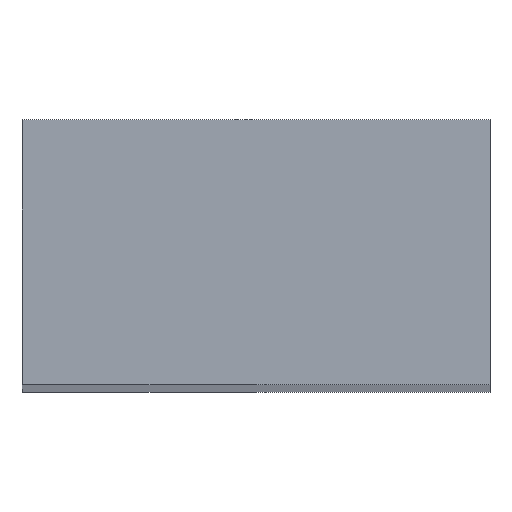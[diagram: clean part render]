
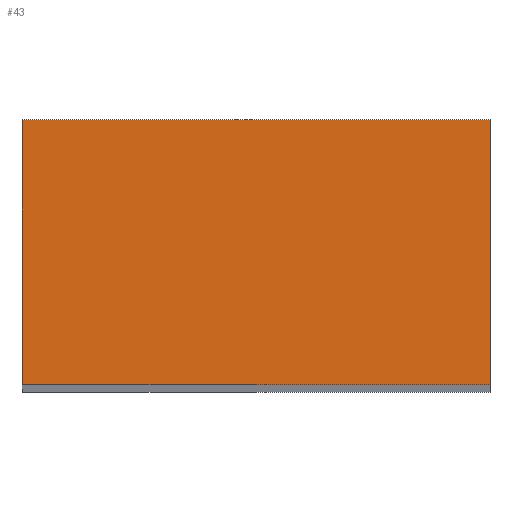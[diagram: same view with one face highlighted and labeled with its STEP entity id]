
A CAD part, top view. The second image highlights one B-rep face of the part: STEP entity #43.
In plain terms, the highlighted planar face has unit normal (0, 0, 1).
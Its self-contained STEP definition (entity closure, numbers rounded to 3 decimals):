
#4 = PLANE ( 'NONE',  #46 ) ;
#12 = DIRECTION ( 'NONE',  ( -1., 0., 0. ) ) ;
#19 = LINE ( 'NONE', #94, #81 ) ;
#20 = LINE ( 'NONE', #176, #112 ) ;
#23 = DIRECTION ( 'NONE',  ( 1., 0., 0. ) ) ;
#25 = DIRECTION ( 'NONE',  ( 0., 0., 1. ) ) ;
#26 = DIRECTION ( 'NONE',  ( 0., -1., 0. ) ) ;
#33 = ORIENTED_EDGE ( 'NONE', *, *, #208, .T. ) ;
#35 = CARTESIAN_POINT ( 'NONE',  ( 2.65, -1.5, 50. ) ) ;
#37 = EDGE_LOOP ( 'NONE', ( #203, #33, #93, #54 ) ) ;
#43 = ADVANCED_FACE ( 'NONE', ( #186 ), #4, .T. ) ;
#46 = AXIS2_PLACEMENT_3D ( 'NONE', #132, #25, #23 ) ;
#54 = ORIENTED_EDGE ( 'NONE', *, *, #105, .T. ) ;
#71 = VERTEX_POINT ( 'NONE', #76 ) ;
#72 = LINE ( 'NONE', #99, #213 ) ;
#76 = CARTESIAN_POINT ( 'NONE',  ( 2.65, 1.5, 50. ) ) ;
#78 = DIRECTION ( 'NONE',  ( 0., 1., 0. ) ) ;
#81 = VECTOR ( 'NONE', #100, 1000. ) ;
#83 = CARTESIAN_POINT ( 'NONE',  ( 2.65, 1.5, 50. ) ) ;
#93 = ORIENTED_EDGE ( 'NONE', *, *, #109, .T. ) ;
#94 = CARTESIAN_POINT ( 'NONE',  ( -2.65, -1.5, 50. ) ) ;
#97 = LINE ( 'NONE', #83, #173 ) ;
#99 = CARTESIAN_POINT ( 'NONE',  ( -2.65, 1.5, 50. ) ) ;
#100 = DIRECTION ( 'NONE',  ( 1., 0., 0. ) ) ;
#102 = EDGE_CURVE ( 'NONE', #174, #71, #97, .T. ) ;
#105 = EDGE_CURVE ( 'NONE', #111, #174, #19, .T. ) ;
#109 = EDGE_CURVE ( 'NONE', #123, #111, #72, .T. ) ;
#111 = VERTEX_POINT ( 'NONE', #125 ) ;
#112 = VECTOR ( 'NONE', #12, 1000. ) ;
#123 = VERTEX_POINT ( 'NONE', #129 ) ;
#125 = CARTESIAN_POINT ( 'NONE',  ( -2.65, -1.5, 50. ) ) ;
#129 = CARTESIAN_POINT ( 'NONE',  ( -2.65, 1.5, 50. ) ) ;
#132 = CARTESIAN_POINT ( 'NONE',  ( 2.65, -1.5, 50. ) ) ;
#173 = VECTOR ( 'NONE', #78, 1000. ) ;
#174 = VERTEX_POINT ( 'NONE', #35 ) ;
#176 = CARTESIAN_POINT ( 'NONE',  ( 2.65, 1.5, 50. ) ) ;
#186 = FACE_OUTER_BOUND ( 'NONE', #37, .T. ) ;
#203 = ORIENTED_EDGE ( 'NONE', *, *, #102, .T. ) ;
#208 = EDGE_CURVE ( 'NONE', #71, #123, #20, .T. ) ;
#213 = VECTOR ( 'NONE', #26, 1000. ) ;
